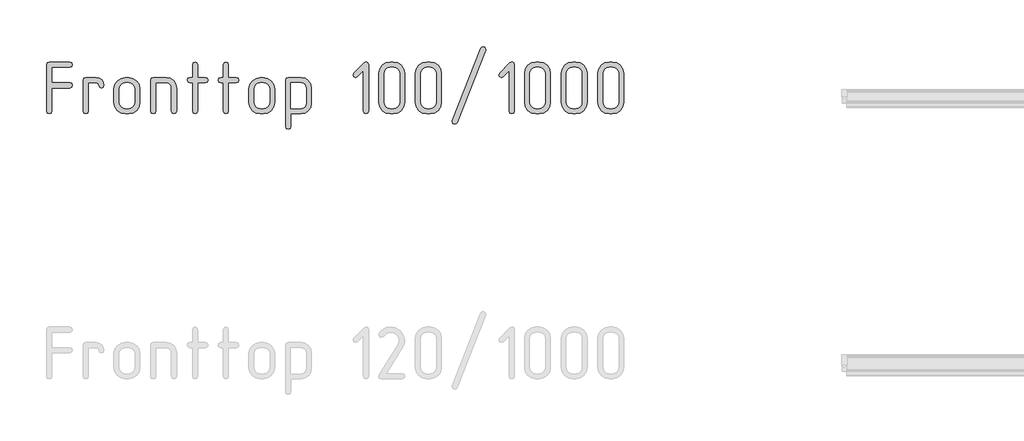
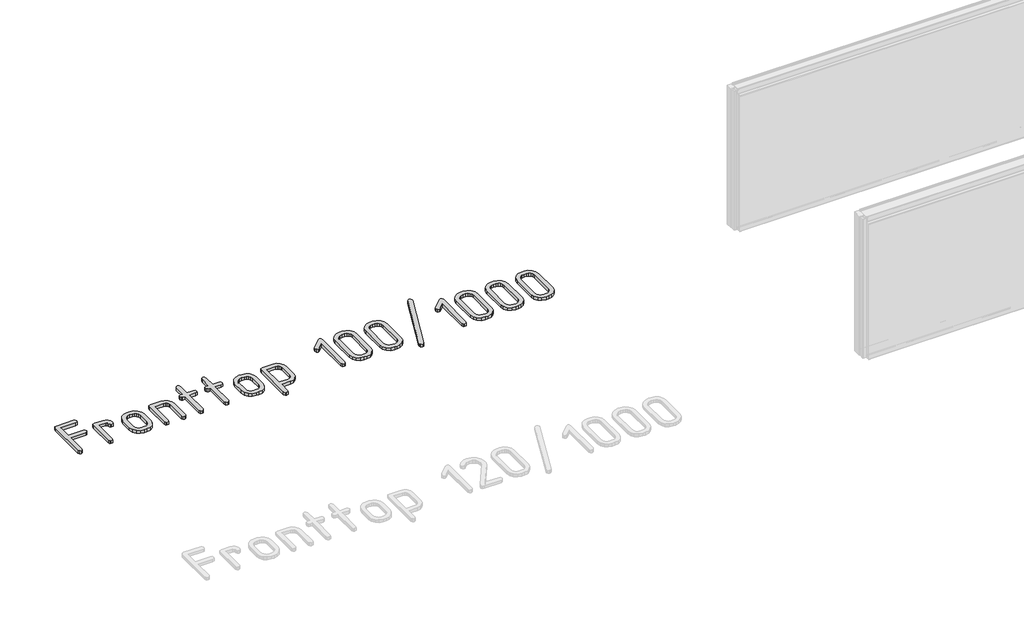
# One storey, part 18 of 37: 1 proxy.
"""IFC4 building model written with IfcOpenShell, lengths in millimetres."""

from ifc_helpers import new_model, si_unit, origin, origin_with_axes, place, context, project, spatial, polyline, outline, extrude, element, save

model = new_model("IFC4")

# Units and contexts
model_context = context("Model", 3, world=origin())
ifc_project = project(units=[si_unit("LENGTHUNIT", "METRE", prefix="MILLI")], contexts=[model_context])

# Site, building, storey
site = spatial("IfcSite", under=ifc_project)
building = spatial("IfcBuilding", under=site)
storey = spatial("IfcBuildingStorey", under=building, Name="Этаж 01", Elevation=0.0)

# Proxy
placement = place(None, origin())
element("IfcBuildingElementProxy", 1, Name="300 мм ГОСТ 2.304", ObjectType="300 мм ГОСТ 2.304", at=placement, inside=storey, context=model_context, shape_type="SweptSolid", body=[
    extrude(outline(polyline([(56161.9989869, -19051.9738322), (56264.4173344, -19051.9738322), (56275.3434297, -19056.0573223), (56278.9854614, -19066.5419592), (56275.1227005, -19077.0633842), (56264.4173344, -19081.5515446), (56161.9989869, -19081.5515446), (56161.9989869, -19213.5476044), (56157.9154968, -19224.4736997), (56147.4308599, -19228.1157314), (56136.9094349, -19224.2529705), (56132.4212745, -19213.5476044), (56132.4212745, -18949.9969431), (56136.1736709, -18938.739754), (56147.4308599, -18934.9873577), (56264.4173344, -18934.9873577), (56275.3434297, -18939.291577), (56278.9854614, -18949.9969431), (56275.1227005, -18960.0769098), (56264.4173344, -18964.5650701), (56161.9989869, -18964.5650701), (56161.9989869, -19051.9738322)])), origin_with_axes(), (0.0, 0.0, 1.0), 20.0),
    extrude(outline(polyline([(56457.0403471, -19066.9834176), (56452.9568569, -19077.9095128), (56442.4722201, -19081.5515446), (56431.950795, -19077.6887836), (56427.4626347, -19066.9834176), (56423.3791445, -19056.7195099), (56412.8945077, -19052.4152905), (56369.1901266, -19052.4152905), (56369.1901266, -19213.5476044), (56365.1066365, -19224.4736997), (56354.6219996, -19228.1157314), (56344.1005746, -19224.2529705), (56339.6124142, -19213.5476044), (56339.6124142, -19037.8471635), (56343.3648106, -19026.9210683), (56354.6219996, -19023.2790365), (56412.8945077, -19023.2790365), (56430.0378086, -19026.7003391), (56444.2012654, -19036.1181182), (56453.6190445, -19050.0608458), (56457.0403471, -19066.9834176)])), origin_with_axes(), (0.0, 0.0, 1.0), 20.0),
    extrude(outline(polyline([(56660.405514, -19163.8099587), (56655.6966245, -19188.7891462), (56641.5699559, -19209.7216317), (56620.9685641, -19223.5172065), (56596.0997413, -19228.1157314), (56578.5149819, -19228.1157314), (56553.5909767, -19223.5172065), (56532.6768853, -19209.7216317), (56518.5502167, -19188.7891462), (56513.8413271, -19163.8099587), (56513.8413271, -19087.5848093), (56518.5502167, -19062.9367156), (56532.6768853, -19042.1145947), (56553.9956469, -19027.9879261), (56578.5149819, -19023.2790365), (56596.0997413, -19023.2790365), (56620.7386379, -19027.9971231), (56641.5331677, -19042.1513829), (56655.6874274, -19062.9459127), (56660.405514, -19087.5848093), (56660.405514, -19163.8099587)]), holes=[polyline([(56631.26926, -19163.8099587), (56631.26926, -19087.5848093), (56628.694086, -19074.0835401), (56620.9685641, -19062.7159864), (56609.6010105, -19054.9904645), (56596.0997413, -19052.4152905), (56578.5149819, -19052.4152905), (56565.0229097, -19054.9904645), (56553.6829472, -19062.7159864), (56545.9850165, -19074.0835401), (56543.4190395, -19087.5848093), (56543.4190395, -19163.8099587), (56545.9850165, -19177.3112279), (56553.6829472, -19188.6787816), (56565.0229097, -19196.4043035), (56578.5149819, -19198.9794774), (56596.0997413, -19198.9794774), (56609.6010105, -19196.4043035), (56620.9685641, -19188.6787816), (56628.694086, -19177.3112279), (56631.26926, -19163.8099587)])]), origin_with_axes(), (0.0, 0.0, 1.0), 20.0),
    extrude(outline(polyline([(56867.5966537, -19213.5476044), (56863.5131635, -19224.4736997), (56853.0285267, -19228.1157314), (56842.7278308, -19224.2529705), (56838.4603997, -19213.5476044), (56838.4603997, -19081.5515446), (56836.3174871, -19070.4139172), (56829.8887492, -19060.986941), (56820.3514085, -19054.5582032), (56808.8826873, -19052.4152905), (56750.6101792, -19052.4152905), (56750.6101792, -19213.5476044), (56746.5266891, -19224.4736997), (56736.0420522, -19228.1157314), (56725.5206272, -19224.2529705), (56721.0324668, -19213.5476044), (56721.0324668, -19037.8471635), (56724.7848632, -19026.9210683), (56736.0420522, -19023.2790365), (56808.8826873, -19023.2790365), (56831.7097651, -19027.4544972), (56850.4533527, -19039.9808791), (56863.3108285, -19058.945196), (56867.5966537, -19081.5515446), (56867.5966537, -19213.5476044)])), origin_with_axes(), (0.0, 0.0, 1.0), 20.0),
    extrude(outline(polyline([(56986.9375729, -19023.2790365), (57031.0834124, -19023.2790365), (57042.0095076, -19027.3625267), (57045.6515394, -19037.8471635), (57041.7887784, -19047.9271302), (57031.0834124, -19052.4152905), (56986.9375729, -19052.4152905), (56986.9375729, -19213.5476044), (56982.8540828, -19224.4736997), (56972.3694459, -19228.1157314), (56962.0687501, -19224.2529705), (56957.8013189, -19213.5476044), (56957.8013189, -19052.4152905), (56943.2331919, -19052.4152905), (56932.3070966, -19048.1478594), (56928.2236065, -19037.8471635), (56932.0863675, -19027.5832559), (56943.2331919, -19023.2790365), (56957.8013189, -19023.2790365), (56957.8013189, -18949.9969431), (56962.0687501, -18939.0708478), (56972.3694459, -18934.9873577), (56982.6333536, -18938.8501186), (56986.9375729, -18949.9969431), (56986.9375729, -19023.2790365)])), origin_with_axes(), (0.0, 0.0, 1.0), 20.0),
    extrude(outline(polyline([(57161.1664858, -19023.2790365), (57205.3123253, -19023.2790365), (57216.2384205, -19027.3625267), (57219.8804523, -19037.8471635), (57216.0176913, -19047.9271302), (57205.3123253, -19052.4152905), (57161.1664858, -19052.4152905), (57161.1664858, -19213.5476044), (57157.0829957, -19224.4736997), (57146.5983588, -19228.1157314), (57136.297663, -19224.2529705), (57132.0302318, -19213.5476044), (57132.0302318, -19052.4152905), (57117.4621048, -19052.4152905), (57106.5360096, -19048.1478594), (57102.4525194, -19037.8471635), (57106.3152804, -19027.5832559), (57117.4621048, -19023.2790365), (57132.0302318, -19023.2790365), (57132.0302318, -18949.9969431), (57136.297663, -18939.0708478), (57146.5983588, -18934.9873577), (57156.8622665, -18938.8501186), (57161.1664858, -18949.9969431), (57161.1664858, -19023.2790365)])), origin_with_axes(), (0.0, 0.0, 1.0), 20.0),
    extrude(outline(polyline([(57423.2456192, -19163.8099587), (57418.5367297, -19188.7891462), (57404.4100611, -19209.7216317), (57383.8086693, -19223.5172065), (57358.9398465, -19228.1157314), (57341.3550871, -19228.1157314), (57316.4310819, -19223.5172065), (57295.5169905, -19209.7216317), (57281.3903219, -19188.7891462), (57276.6814323, -19163.8099587), (57276.6814323, -19087.5848093), (57281.3903219, -19062.9367156), (57295.5169905, -19042.1145947), (57316.8357521, -19027.9879261), (57341.3550871, -19023.2790365), (57358.9398465, -19023.2790365), (57383.5787431, -19027.9971231), (57404.3732729, -19042.1513829), (57418.5275326, -19062.9459127), (57423.2456192, -19087.5848093), (57423.2456192, -19163.8099587)]), holes=[polyline([(57394.1093652, -19163.8099587), (57394.1093652, -19087.5848093), (57391.5341912, -19074.0835401), (57383.8086693, -19062.7159864), (57372.4411157, -19054.9904645), (57358.9398465, -19052.4152905), (57341.3550871, -19052.4152905), (57327.8630149, -19054.9904645), (57316.5230524, -19062.7159864), (57308.8251217, -19074.0835401), (57306.2591447, -19087.5848093), (57306.2591447, -19163.8099587), (57308.8251217, -19177.3112279), (57316.5230524, -19188.6787816), (57327.8630149, -19196.4043035), (57341.3550871, -19198.9794774), (57358.9398465, -19198.9794774), (57372.4411157, -19196.4043035), (57383.8086693, -19188.6787816), (57391.5341912, -19177.3112279), (57394.1093652, -19163.8099587)])]), origin_with_axes(), (0.0, 0.0, 1.0), 20.0),
    extrude(outline(polyline([(57513.4502844, -19228.1157314), (57513.4502844, -19301.3978249), (57509.3667943, -19312.3239201), (57498.8821574, -19315.9659519), (57488.3607324, -19312.1031909), (57483.872572, -19301.3978249), (57483.872572, -19037.8471635), (57487.6249684, -19026.9210683), (57498.8821574, -19023.2790365), (57571.7227925, -19023.2790365), (57594.5498703, -19027.4544972), (57613.2934579, -19039.9808791), (57626.1509337, -19058.945196), (57630.4367589, -19081.5515446), (57630.4367589, -19169.401765), (57626.1509337, -19192.3392074), (57613.2934579, -19211.4138889), (57594.5498703, -19223.9402708), (57571.7227925, -19228.1157314), (57513.4502844, -19228.1157314)]), holes=[polyline([(57513.4502844, -19198.9794774), (57571.7227925, -19198.9794774), (57583.1915137, -19196.8365648), (57592.7288544, -19190.4078269), (57599.1575923, -19180.8704862), (57601.3005049, -19169.401765), (57601.3005049, -19081.5515446), (57599.1575923, -19070.4139172), (57592.7288544, -19060.986941), (57583.1915137, -19054.5582032), (57571.7227925, -19052.4152905), (57513.4502844, -19052.4152905), (57513.4502844, -19198.9794774)])]), origin_with_axes(), (0.0, 0.0, 1.0), 20.0),
    extrude(outline(polyline([(57953.1428451, -19213.5476044), (57949.0593549, -19224.4736997), (57938.5747181, -19228.1157314), (57928.4947514, -19224.2529705), (57924.006591, -19213.5476044), (57924.006591, -18985.1664618), (57890.1614475, -19018.570147), (57880.30221, -19023.2790365), (57869.780785, -19018.7908762), (57865.2926246, -19008.2694511), (57870.0015142, -18998.0423317), (57928.2740222, -18939.6962472), (57941.149892, -18933.2951005), (57949.7215425, -18937.5993199), (57953.1428451, -18949.9969431), (57953.1428451, -19213.5476044)])), origin_with_axes(), (0.0, 0.0, 1.0), 20.0),
    extrude(outline(polyline([(58157.8323872, -19163.8099587), (58153.1234976, -19188.7891462), (58138.996829, -19209.7216317), (58118.3954373, -19223.5172065), (58093.5266144, -19228.1157314), (58075.9418551, -19228.1157314), (58051.0178499, -19223.5172065), (58030.1037585, -19209.7216317), (58015.9770898, -19188.7891462), (58011.2682003, -19163.8099587), (58011.2682003, -18999.7345888), (58015.9770898, -18975.0864952), (58030.1037585, -18954.2643742), (58051.2017909, -18939.8066118), (58075.9418551, -18934.9873577), (58093.5266144, -18934.9873577), (58118.1655111, -18939.7054443), (58138.9600408, -18953.859704), (58153.1143006, -18974.7645984), (58157.8323872, -18999.7345888), (58157.8323872, -19163.8099587)]), holes=[polyline([(58128.6961332, -19163.8099587), (58128.6961332, -18999.7345888), (58126.1209592, -18986.2333196), (58118.3954373, -18974.865766), (58107.0278836, -18967.1402441), (58093.5266144, -18964.5650701), (58075.9418551, -18964.5650701), (58062.4497829, -18967.1402441), (58051.1098204, -18974.865766), (58043.4118896, -18986.2333196), (58040.8459127, -18999.7345888), (58040.8459127, -19163.8099587), (58043.4118896, -19177.3112279), (58051.1098204, -19188.6787816), (58062.4497829, -19196.4043035), (58075.9418551, -19198.9794774), (58093.5266144, -19198.9794774), (58107.0278836, -19196.4043035), (58118.3954373, -19188.6787816), (58126.1209592, -19177.3112279), (58128.6961332, -19163.8099587)])]), origin_with_axes(), (0.0, 0.0, 1.0), 20.0),
    extrude(outline(polyline([(58365.0235269, -19163.8099587), (58360.3146373, -19188.7891462), (58346.1879687, -19209.7216317), (58325.586577, -19223.5172065), (58300.7177541, -19228.1157314), (58283.1329947, -19228.1157314), (58258.2089896, -19223.5172065), (58237.2948981, -19209.7216317), (58223.1682295, -19188.7891462), (58218.45934, -19163.8099587), (58218.45934, -18999.7345888), (58223.1682295, -18975.0864952), (58237.2948981, -18954.2643742), (58258.3929306, -18939.8066118), (58283.1329947, -18934.9873577), (58300.7177541, -18934.9873577), (58325.3566507, -18939.7054443), (58346.1511805, -18953.859704), (58360.3054403, -18974.7645984), (58365.0235269, -18999.7345888), (58365.0235269, -19163.8099587)]), holes=[polyline([(58335.8872728, -19163.8099587), (58335.8872728, -18999.7345888), (58333.3120989, -18986.2333196), (58325.586577, -18974.865766), (58314.2190233, -18967.1402441), (58300.7177541, -18964.5650701), (58283.1329947, -18964.5650701), (58269.6409226, -18967.1402441), (58258.3009601, -18974.865766), (58250.6030293, -18986.2333196), (58248.0370524, -18999.7345888), (58248.0370524, -19163.8099587), (58250.6030293, -19177.3112279), (58258.3009601, -19188.6787816), (58269.6409226, -19196.4043035), (58283.1329947, -19198.9794774), (58300.7177541, -19198.9794774), (58314.2190233, -19196.4043035), (58325.586577, -19188.6787816), (58333.3120989, -19177.3112279), (58335.8872728, -19163.8099587)])]), origin_with_axes(), (0.0, 0.0, 1.0), 20.0),
    extrude(outline(polyline([(58615.4775892, -18867.2970706), (58454.3452753, -19277.4119188), (58448.7902572, -19284.2545239), (58441.1015235, -19286.8296979), (58430.3593692, -19282.7462077), (58425.6504797, -19272.2615709), (58426.5333965, -19266.6697645), (58587.6657103, -18856.6284927), (58593.2207285, -18849.7123112), (58600.9094622, -18847.1371372), (58611.6516164, -18851.4413566), (58616.360506, -18861.7052642), (58615.4775892, -18867.2970706)])), origin_with_axes(), (0.0, 0.0, 1.0), 20.0),
    extrude(outline(polyline([(58777.1985143, -19213.5476044), (58773.1150241, -19224.4736997), (58762.6303873, -19228.1157314), (58752.5504206, -19224.2529705), (58748.0622602, -19213.5476044), (58748.0622602, -18985.1664618), (58714.2171167, -19018.570147), (58704.3578792, -19023.2790365), (58693.8364542, -19018.7908762), (58689.3482938, -19008.2694511), (58694.0571833, -18998.0423317), (58752.3296914, -18939.6962472), (58765.2055612, -18933.2951005), (58773.7772117, -18937.5993199), (58777.1985143, -18949.9969431), (58777.1985143, -19213.5476044)])), origin_with_axes(), (0.0, 0.0, 1.0), 20.0),
    extrude(outline(polyline([(58981.8880564, -19163.8099587), (58977.1791668, -19188.7891462), (58963.0524982, -19209.7216317), (58942.4511065, -19223.5172065), (58917.5822836, -19228.1157314), (58899.9975242, -19228.1157314), (58875.0735191, -19223.5172065), (58854.1594277, -19209.7216317), (58840.032759, -19188.7891462), (58835.3238695, -19163.8099587), (58835.3238695, -18999.7345888), (58840.032759, -18975.0864952), (58854.1594277, -18954.2643742), (58875.2574601, -18939.8066118), (58899.9975242, -18934.9873577), (58917.5822836, -18934.9873577), (58942.2211802, -18939.7054443), (58963.01571, -18953.859704), (58977.1699698, -18974.7645984), (58981.8880564, -18999.7345888), (58981.8880564, -19163.8099587)]), holes=[polyline([(58952.7518024, -19163.8099587), (58952.7518024, -18999.7345888), (58950.1766284, -18986.2333196), (58942.4511065, -18974.865766), (58931.0835528, -18967.1402441), (58917.5822836, -18964.5650701), (58899.9975242, -18964.5650701), (58886.5054521, -18967.1402441), (58875.1654896, -18974.865766), (58867.4675588, -18986.2333196), (58864.9015819, -18999.7345888), (58864.9015819, -19163.8099587), (58867.4675588, -19177.3112279), (58875.1654896, -19188.6787816), (58886.5054521, -19196.4043035), (58899.9975242, -19198.9794774), (58917.5822836, -19198.9794774), (58931.0835528, -19196.4043035), (58942.4511065, -19188.6787816), (58950.1766284, -19177.3112279), (58952.7518024, -19163.8099587)])]), origin_with_axes(), (0.0, 0.0, 1.0), 20.0),
    extrude(outline(polyline([(59189.0791961, -19163.8099587), (59184.3703065, -19188.7891462), (59170.2436379, -19209.7216317), (59149.6422462, -19223.5172065), (59124.7734233, -19228.1157314), (59107.1886639, -19228.1157314), (59082.2646588, -19223.5172065), (59061.3505673, -19209.7216317), (59047.2238987, -19188.7891462), (59042.5150092, -19163.8099587), (59042.5150092, -18999.7345888), (59047.2238987, -18975.0864952), (59061.3505673, -18954.2643742), (59082.4485998, -18939.8066118), (59107.1886639, -18934.9873577), (59124.7734233, -18934.9873577), (59149.4123199, -18939.7054443), (59170.2068497, -18953.859704), (59184.3611095, -18974.7645984), (59189.0791961, -18999.7345888), (59189.0791961, -19163.8099587)]), holes=[polyline([(59159.942942, -19163.8099587), (59159.942942, -18999.7345888), (59157.3677681, -18986.2333196), (59149.6422462, -18974.865766), (59138.2746925, -18967.1402441), (59124.7734233, -18964.5650701), (59107.1886639, -18964.5650701), (59093.6965918, -18967.1402441), (59082.3566293, -18974.865766), (59074.6586985, -18986.2333196), (59072.0927216, -18999.7345888), (59072.0927216, -19163.8099587), (59074.6586985, -19177.3112279), (59082.3566293, -19188.6787816), (59093.6965918, -19196.4043035), (59107.1886639, -19198.9794774), (59124.7734233, -19198.9794774), (59138.2746925, -19196.4043035), (59149.6422462, -19188.6787816), (59157.3677681, -19177.3112279), (59159.942942, -19163.8099587)])]), origin_with_axes(), (0.0, 0.0, 1.0), 20.0),
    extrude(outline(polyline([(59396.2703357, -19163.8099587), (59391.5614462, -19188.7891462), (59377.4347776, -19209.7216317), (59356.8333859, -19223.5172065), (59331.964563, -19228.1157314), (59314.3798036, -19228.1157314), (59289.4557984, -19223.5172065), (59268.541707, -19209.7216317), (59254.4150384, -19188.7891462), (59249.7061489, -19163.8099587), (59249.7061489, -18999.7345888), (59254.4150384, -18975.0864952), (59268.541707, -18954.2643742), (59289.6397394, -18939.8066118), (59314.3798036, -18934.9873577), (59331.964563, -18934.9873577), (59356.6034596, -18939.7054443), (59377.3979894, -18953.859704), (59391.5522492, -18974.7645984), (59396.2703357, -18999.7345888), (59396.2703357, -19163.8099587)]), holes=[polyline([(59367.1340817, -19163.8099587), (59367.1340817, -18999.7345888), (59364.5589078, -18986.2333196), (59356.8333859, -18974.865766), (59345.4658322, -18967.1402441), (59331.964563, -18964.5650701), (59314.3798036, -18964.5650701), (59300.8877314, -18967.1402441), (59289.5477689, -18974.865766), (59281.8498382, -18986.2333196), (59279.2838613, -18999.7345888), (59279.2838613, -19163.8099587), (59281.8498382, -19177.3112279), (59289.5477689, -19188.6787816), (59300.8877314, -19196.4043035), (59314.3798036, -19198.9794774), (59331.964563, -19198.9794774), (59345.4658322, -19196.4043035), (59356.8333859, -19188.6787816), (59364.5589078, -19177.3112279), (59367.1340817, -19163.8099587)])]), origin_with_axes(), (0.0, 0.0, 1.0), 20.0),
])

save(model, "model.ifc")
